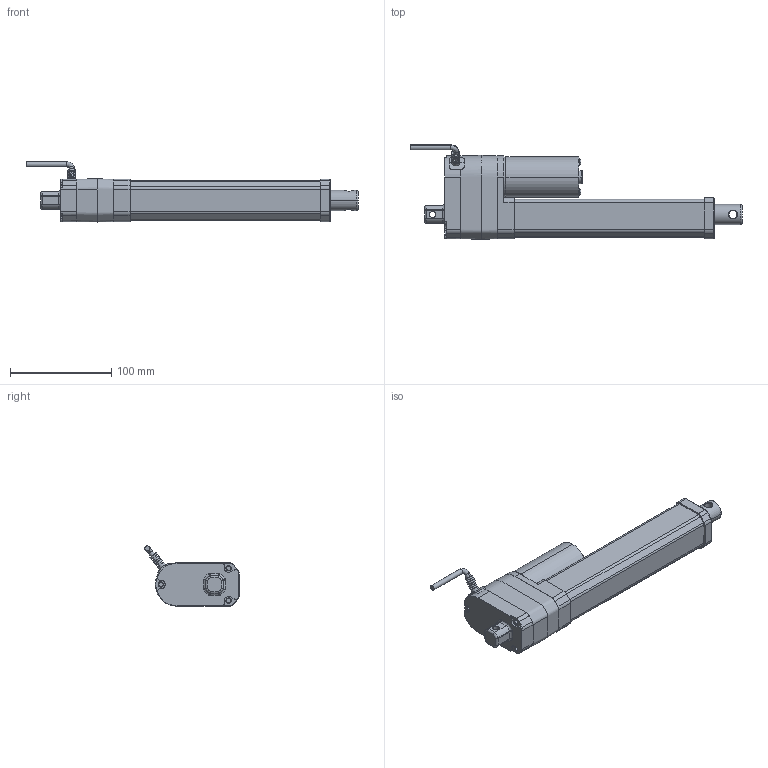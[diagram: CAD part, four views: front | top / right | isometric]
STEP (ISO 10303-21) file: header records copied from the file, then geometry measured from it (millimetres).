
FILE_DESCRIPTION((''),' ');
FILE_NAME('dszy11_150_pot.stp',' ',('r'),('r'),' ','ACIS 14.0',' ');
FILE_SCHEMA(('automotive_design'));
Length unit declared in the file: inch
Products named in the file (3): DSZY11-POT-150
Bounding box: 328.45 x 93.39 x 59.66 mm (x, y, z)
Volume: 379171.2 mm3; surface area: 113251.5 mm2
Topology: 3 solids, 3 shells, 320 faces, 842 edges, 551 vertices
Faces by surface type: cylinder 130, plane 121, torus 32, cone 20, bspline 13, sphere 4
Entity records: 13310 total; most frequent: CARTESIAN_POINT 2632, DIRECTION 1741, ORIENTED_EDGE 1672, EDGE_CURVE 836, AXIS2_PLACEMENT_3D 679, VERTEX_POINT 551, LINE 383, VECTOR 383
